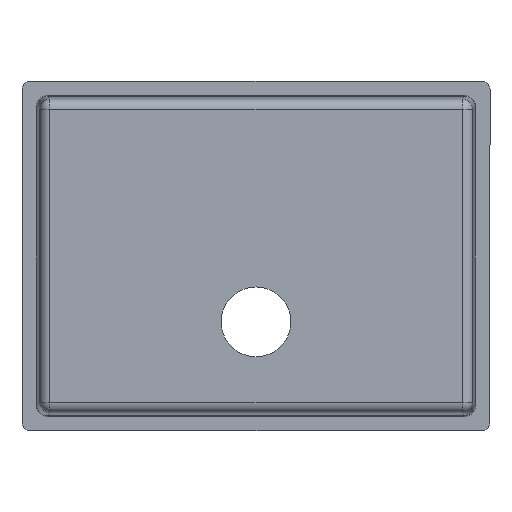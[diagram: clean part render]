
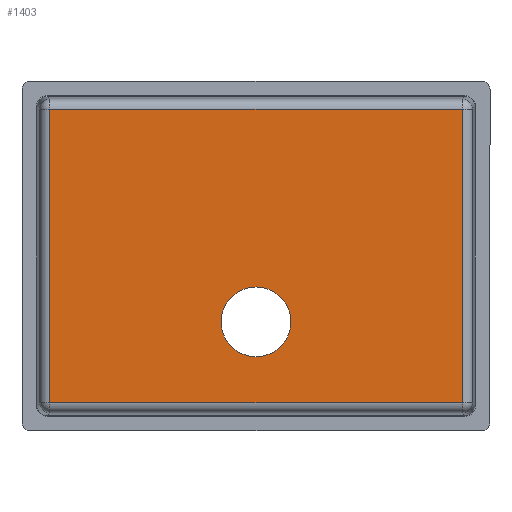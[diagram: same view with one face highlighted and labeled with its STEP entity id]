
A CAD part, front view. The second image highlights one B-rep face of the part: STEP entity #1403.
In plain terms, the highlighted planar face has unit normal (0, -1, 0).
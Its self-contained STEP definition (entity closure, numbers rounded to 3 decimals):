
#31 = ORIENTED_EDGE ( 'NONE', *, *, #559, .T. ) ;
#52 = CARTESIAN_POINT ( 'NONE',  ( 259.734, 0., 184.734 ) ) ;
#101 = DIRECTION ( 'NONE',  ( 0., 0., -1. ) ) ;
#173 = CARTESIAN_POINT ( 'NONE',  ( -259.734, 0., -184.734 ) ) ;
#268 = CARTESIAN_POINT ( 'NONE',  ( -259.734, 0., -197.509 ) ) ;
#406 = DIRECTION ( 'NONE',  ( 0., 0., 1. ) ) ;
#452 = ORIENTED_EDGE ( 'NONE', *, *, #2115, .F. ) ;
#467 = ORIENTED_EDGE ( 'NONE', *, *, #1739, .T. ) ;
#482 = DIRECTION ( 'NONE',  ( 0., 0., -1. ) ) ;
#559 = EDGE_CURVE ( 'NONE', #2030, #863, #1661, .T. ) ;
#568 = CARTESIAN_POINT ( 'NONE',  ( 259.734, 0., 197.509 ) ) ;
#570 = ORIENTED_EDGE ( 'NONE', *, *, #727, .T. ) ;
#605 = AXIS2_PLACEMENT_3D ( 'NONE', #1719, #1397, #101 ) ;
#636 = VECTOR ( 'NONE', #828, 1000. ) ;
#668 = PLANE ( 'NONE',  #1015 ) ;
#680 = CIRCLE ( 'NONE', #711, 44. ) ;
#692 = DIRECTION ( 'NONE',  ( 0., 0., -1. ) ) ;
#711 = AXIS2_PLACEMENT_3D ( 'NONE', #1982, #887, #692 ) ;
#714 = EDGE_CURVE ( 'NONE', #863, #732, #1770, .T. ) ;
#727 = EDGE_CURVE ( 'NONE', #779, #2030, #1399, .T. ) ;
#732 = VERTEX_POINT ( 'NONE', #1915 ) ;
#779 = VERTEX_POINT ( 'NONE', #173 ) ;
#793 = LINE ( 'NONE', #268, #2316 ) ;
#828 = DIRECTION ( 'NONE',  ( 1., 0., 0. ) ) ;
#853 = FACE_BOUND ( 'NONE', #1221, .T. ) ;
#863 = VERTEX_POINT ( 'NONE', #52 ) ;
#887 = DIRECTION ( 'NONE',  ( 0., -1., 0. ) ) ;
#940 = CARTESIAN_POINT ( 'NONE',  ( 0., 0., -39.017 ) ) ;
#944 = EDGE_LOOP ( 'NONE', ( #31, #1637, #467, #570 ) ) ;
#1015 = AXIS2_PLACEMENT_3D ( 'NONE', #2281, #1370, #482 ) ;
#1175 = CIRCLE ( 'NONE', #605, 44. ) ;
#1210 = DIRECTION ( 'NONE',  ( -1., 0., 0. ) ) ;
#1221 = EDGE_LOOP ( 'NONE', ( #452, #2210 ) ) ;
#1350 = DIRECTION ( 'NONE',  ( 0., 0., -1. ) ) ;
#1370 = DIRECTION ( 'NONE',  ( 0., -1., 0. ) ) ;
#1376 = CARTESIAN_POINT ( 'NONE',  ( 272.509, 0., -184.734 ) ) ;
#1397 = DIRECTION ( 'NONE',  ( 0., -1., 0. ) ) ;
#1399 = LINE ( 'NONE', #1376, #636 ) ;
#1403 = ADVANCED_FACE ( 'NONE', ( #853, #1945 ), #668, .T. ) ;
#1498 = CARTESIAN_POINT ( 'NONE',  ( 0., 0., -127.017 ) ) ;
#1637 = ORIENTED_EDGE ( 'NONE', *, *, #714, .T. ) ;
#1661 = LINE ( 'NONE', #568, #1811 ) ;
#1719 = CARTESIAN_POINT ( 'NONE',  ( 0., 0., -83.017 ) ) ;
#1739 = EDGE_CURVE ( 'NONE', #732, #779, #793, .T. ) ;
#1770 = LINE ( 'NONE', #2129, #2235 ) ;
#1811 = VECTOR ( 'NONE', #406, 1000. ) ;
#1861 = VERTEX_POINT ( 'NONE', #940 ) ;
#1915 = CARTESIAN_POINT ( 'NONE',  ( -259.734, 0., 184.734 ) ) ;
#1945 = FACE_OUTER_BOUND ( 'NONE', #944, .T. ) ;
#1982 = CARTESIAN_POINT ( 'NONE',  ( 0., 0., -83.017 ) ) ;
#2030 = VERTEX_POINT ( 'NONE', #2286 ) ;
#2056 = EDGE_CURVE ( 'NONE', #2182, #1861, #1175, .T. ) ;
#2115 = EDGE_CURVE ( 'NONE', #1861, #2182, #680, .T. ) ;
#2129 = CARTESIAN_POINT ( 'NONE',  ( -272.509, 0., 184.734 ) ) ;
#2182 = VERTEX_POINT ( 'NONE', #1498 ) ;
#2210 = ORIENTED_EDGE ( 'NONE', *, *, #2056, .F. ) ;
#2235 = VECTOR ( 'NONE', #1210, 1000. ) ;
#2281 = CARTESIAN_POINT ( 'NONE',  ( 0., 0., 0. ) ) ;
#2286 = CARTESIAN_POINT ( 'NONE',  ( 259.734, 0., -184.734 ) ) ;
#2316 = VECTOR ( 'NONE', #1350, 1000. ) ;
